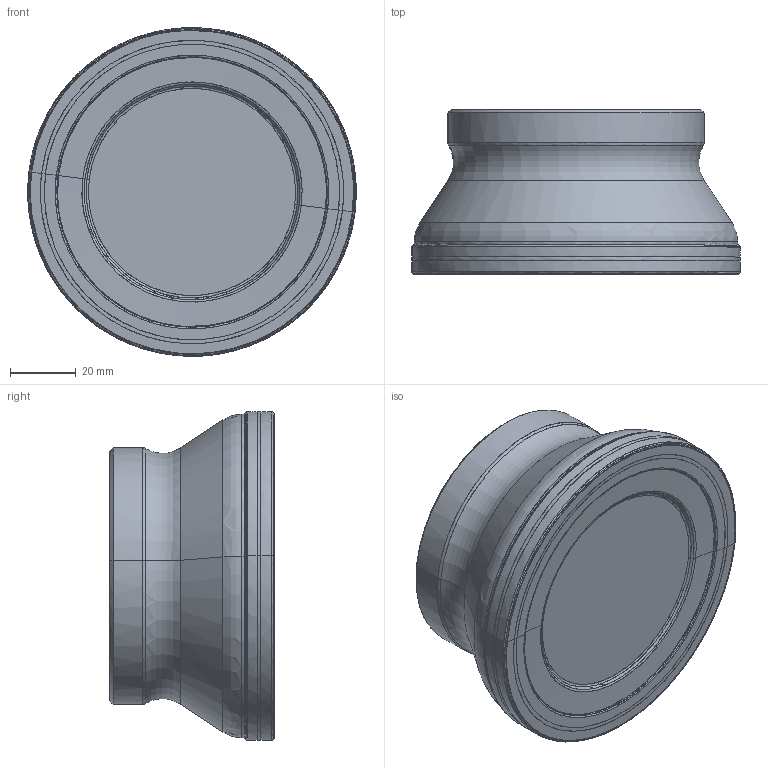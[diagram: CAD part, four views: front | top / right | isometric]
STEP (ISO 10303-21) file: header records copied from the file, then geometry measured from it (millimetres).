
FILE_DESCRIPTION(('OPEN MIND Model'),'2;1');
FILE_NAME('OPEN MIND Shape Model','2018-12-13T09:25:31',('Author'),( 'hyperCAD-S '),'hyperCAD-S STEP processor 6.6','hyperCAD-S 1.0' ,'Unknown');
FILE_SCHEMA(('AUTOMOTIVE_DESIGN { 1 2 10303 214 -1 1 5 4 }'));
Length unit declared in the file: millimetre
Products named in the file (57): Product 1; Product 1.1; Product 1.2; Product 1.3; Product 1.4; Product 1.5; Product 1.6; Product 1.7; Product 1.8; Product 1.9; Product 1.10; Product 1.11; Product 1.12; Product 1.13; Product 1.14; Product 1.15; Product 1.16; Product 1.17; Product 1.18; Product 1.19; Product 1.20; Product 1.21; Product 1.22; Product 1.23; Product 1.24; Product 1.25; Product 1.26; Product 1.27; Product 1.28; Product 1.29; Product 1.30; Product 1.31; Product 1.32; Product 1.33; Product 1.34; Product 1.35; Product 1.36; Product 1.37; Product 1.38; Product 1.39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
Assembly tree (56 placements, depth 2):
  Product 1
    Product 1.1
    Product 1.2
    Product 1.3
    Product 1.4
    Product 1.5
    Product 1.6
    Product 1.7
    Product 1.8
    Product 1.9
    Product 1.10
    Product 1.11
    Product 1.12
    Product 1.13
    Product 1.14
    Product 1.15
    Product 1.16
    Product 1.17
    Product 1.18
    Product 1.19
    Product 1.20
    Product 1.21
    Product 1.22
    Product 1.23
    Product 1.24
    Product 1.25
    Product 1.26
    Product 1.27
    Product 1.28
    Product 1.29
    Product 1.30
    Product 1.31
    Product 1.32
    Product 1.33
    Product 1.34
    Product 1.35
    Product 1.36
    Product 1.37
    Product 1.38
    Product 1.39
    Product 1.40
    Product 1.41
    Product 1.42
    Product 1.43
    Product 1.44
    Product 1.45
    Product 1.46
    Product 1.47
    Product 1.48
    Product 1.49
    Product 1.50
    Product 1.51
    Product 1.52
    Product 1.53
    Product 1.54
    Product 1.55
    Product 1.56
Bounding box: 99.99 x 50.05 x 99.99 mm (x, y, z)
Surface area: 27223.4 mm2 (no closed solid volume)
Topology: 0 solids, 56 shells, 56 faces, 220 edges, 220 vertices
Faces by surface type: bspline 28, revolution 22, plane 4, cylinder 2
Entity records: 33203 total; most frequent: CARTESIAN_POINT 29946, B_SPLINE_CURVE_WITH_KNOTS 450, ORIENTED_EDGE 220, EDGE_CURVE 220, VERTEX_POINT 220, SURFACE_CURVE 220, PCURVE 220, DEFINITIONAL_REPRESENTATION 220
